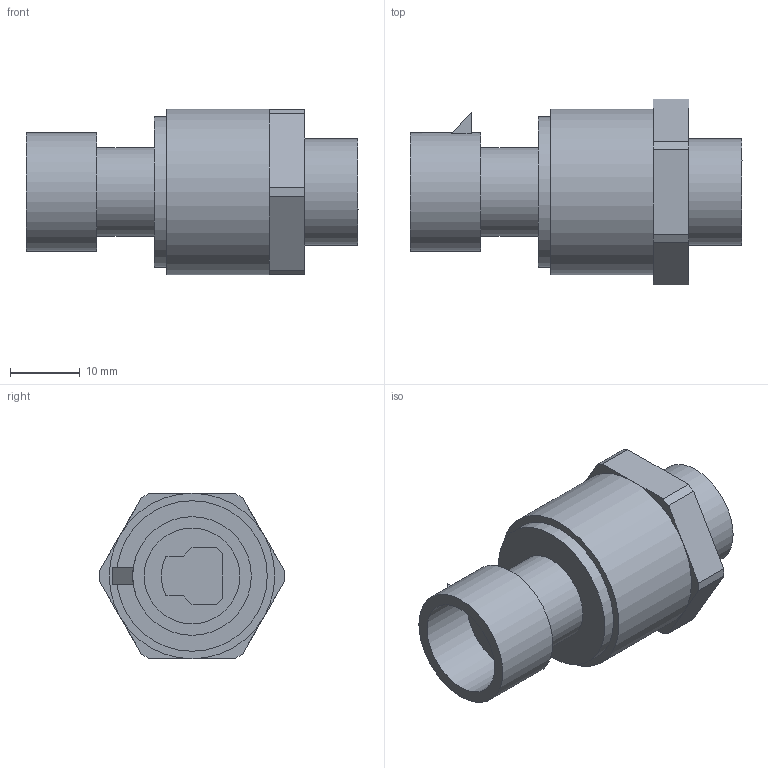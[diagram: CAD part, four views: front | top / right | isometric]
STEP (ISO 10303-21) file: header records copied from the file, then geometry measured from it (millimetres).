
FILE_DESCRIPTION(/* description */ (''),/* implementation_level */ '2;1');
FILE_NAME(/* name */ 'R:\Temp\J. Narvaez\IAN DRAWINGS\002 - Sensors\013 - MCS Pressure Transducers\MCS-500C.stp',/* time_stamp */ '2022-11-14T09:54:30-05:00',/* author */ ('mjeter'),/* organization */ ('unknown'),/* preprocessor_version */ 'ST-DEVELOPER v19',/* originating_system */ 'Autodesk Inventor 2023',/* authorisation */ '');
FILE_SCHEMA (('AUTOMOTIVE_DESIGN { 1 0 10303 214 3 1 1 }'));
Length unit declared in the file: inch
Products named in the file (1): MCS-500C
Bounding box: 47.63 x 26.67 x 23.75 mm (x, y, z)
Volume: 11679.5 mm3; surface area: 5089.5 mm2
Topology: 1 solids, 1 shells, 60 faces, 141 edges, 92 vertices
Faces by surface type: plane 41, cylinder 16, bspline 2, cone 1
Full cylindrical faces by diameter (mm): 10.795 x7, 12.7 x1, 13.716 x1, 15.24 x1, 17.018 x1, 21.59 x1, 23.749 x1
Entity records: 5393 total; most frequent: CARTESIAN_POINT 3979, ORIENTED_EDGE 282, DIRECTION 264, EDGE_CURVE 141, LINE 92, VECTOR 92, VERTEX_POINT 92, AXIS2_PLACEMENT_3D 86
